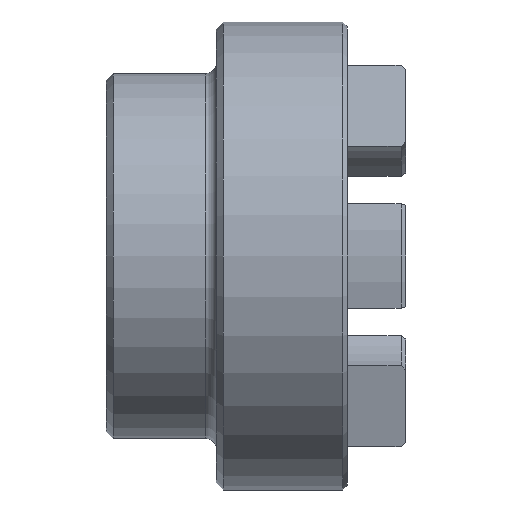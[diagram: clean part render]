
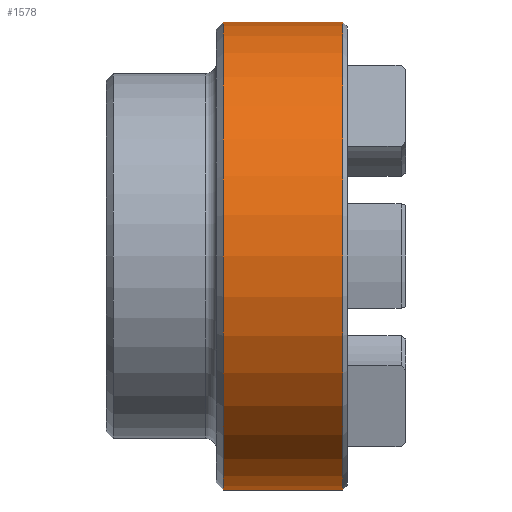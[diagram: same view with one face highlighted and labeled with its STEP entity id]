
A CAD part, front view. The second image highlights one B-rep face of the part: STEP entity #1578.
In plain terms, the highlighted cylindrical face has radius 50.8 mm (diameter 101.6 mm), a full revolution.
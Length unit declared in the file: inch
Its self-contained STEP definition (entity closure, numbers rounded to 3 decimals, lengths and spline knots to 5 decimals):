
#8 = EDGE_CURVE ( 'NONE', #540, #540, #1628, .T. ) ;
#86 = DIRECTION ( 'NONE',  ( -1., 0., 0. ) ) ;
#90 = DIRECTION ( 'NONE',  ( 0., 0., 1. ) ) ;
#193 = AXIS2_PLACEMENT_3D ( 'NONE', #2147, #1113, #90 ) ;
#194 = EDGE_CURVE ( 'NONE', #241, #241, #1950, .T. ) ;
#241 = VERTEX_POINT ( 'NONE', #313 ) ;
#313 = CARTESIAN_POINT ( 'NONE',  ( 2.02, 0., 2. ) ) ;
#507 = DIRECTION ( 'NONE',  ( 0., 0., -1. ) ) ;
#540 = VERTEX_POINT ( 'NONE', #2086 ) ;
#595 = ORIENTED_EDGE ( 'NONE', *, *, #194, .T. ) ;
#634 = ORIENTED_EDGE ( 'NONE', *, *, #8, .T. ) ;
#647 = EDGE_LOOP ( 'NONE', ( #595 ) ) ;
#737 = AXIS2_PLACEMENT_3D ( 'NONE', #1222, #86, #1784 ) ;
#796 = CYLINDRICAL_SURFACE ( 'NONE', #193, 2. ) ;
#944 = AXIS2_PLACEMENT_3D ( 'NONE', #1496, #2018, #507 ) ;
#1075 = EDGE_LOOP ( 'NONE', ( #634 ) ) ;
#1113 = DIRECTION ( 'NONE',  ( -1., 0., 0. ) ) ;
#1222 = CARTESIAN_POINT ( 'NONE',  ( 2.02, 0., 0. ) ) ;
#1496 = CARTESIAN_POINT ( 'NONE',  ( 1., 0., 0. ) ) ;
#1578 = ADVANCED_FACE ( 'NONE', ( #1787, #2344 ), #796, .T. ) ;
#1628 = CIRCLE ( 'NONE', #944, 2. ) ;
#1784 = DIRECTION ( 'NONE',  ( 0., 0., 1. ) ) ;
#1787 = FACE_OUTER_BOUND ( 'NONE', #647, .T. ) ;
#1950 = CIRCLE ( 'NONE', #737, 2. ) ;
#2018 = DIRECTION ( 'NONE',  ( 1., 0., 0. ) ) ;
#2086 = CARTESIAN_POINT ( 'NONE',  ( 1., 0., -2. ) ) ;
#2147 = CARTESIAN_POINT ( 'NONE',  ( 0.49, 0., 0. ) ) ;
#2344 = FACE_OUTER_BOUND ( 'NONE', #1075, .T. ) ;
